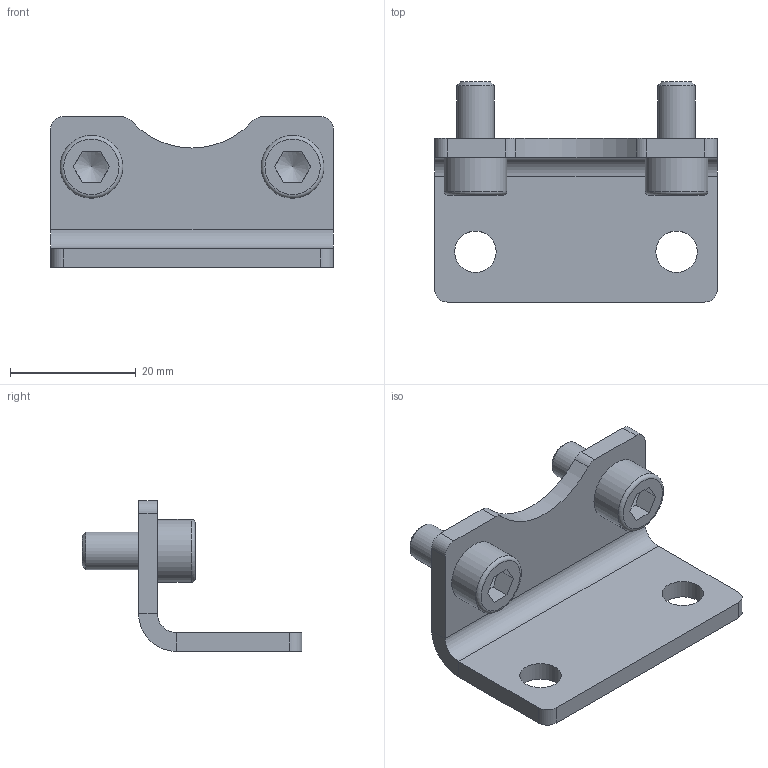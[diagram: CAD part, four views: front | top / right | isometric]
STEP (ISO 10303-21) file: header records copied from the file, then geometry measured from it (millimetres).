
FILE_DESCRIPTION(/* description */ (''),/* implementation_level */ '2;1');
FILE_NAME(/* name */ 'C:\Users\probic.HYPEX\Desktop\3d feldin\izvoz\CAD_108255_F.stp',/* time_stamp */ '2021-01-19T10:18:09+01:00',/* author */ ('Hypex'),/* organization */ ('Hypex'),/* preprocessor_version */ 'ST-DEVELOPER v18',/* originating_system */ 'Autodesk Inventor 2020',/* authorisation */ '');
FILE_SCHEMA (('AUTOMOTIVE_DESIGN { 1 0 10303 214 3 1 1 }'));
Length unit declared in the file: millimetre
Products named in the file (1): CAD_108255_F
Bounding box: 45 x 35 x 24 mm (x, y, z)
Volume: 6900.4 mm3; surface area: 5466.7 mm2
Topology: 1 solids, 1 shells, 56 faces, 150 edges, 102 vertices
Faces by surface type: plane 31, cylinder 17, torus 4, cone 4
Full cylindrical faces by diameter (mm): 6 x2, 6.6 x4, 10 x2
Entity records: 1885 total; most frequent: CARTESIAN_POINT 335, DIRECTION 312, ORIENTED_EDGE 296, EDGE_CURVE 148, AXIS2_PLACEMENT_3D 121, VERTEX_POINT 102, LINE 70, VECTOR 70
